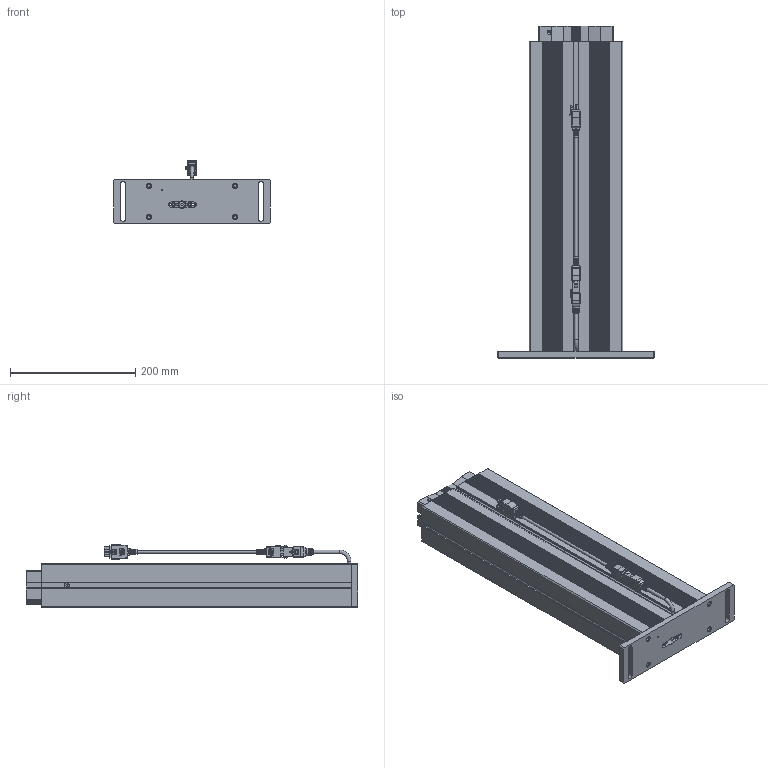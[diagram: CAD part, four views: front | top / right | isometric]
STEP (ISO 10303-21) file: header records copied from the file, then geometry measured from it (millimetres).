
FILE_DESCRIPTION(/* description */ ('Unknown'),/* implementation_level */ '2;1');
FILE_NAME(/* name */ '902.00003_05-Eingefahren',/* time_stamp */ '2022-01-25T17:50:37+01:00',/* author */ ('Unknown'),/* organization */ ('Unknown'),/* preprocessor_version */ 'ST-DEVELOPER v18.1',/* originating_system */ 'Solid Edge',/* authorisation */ 'Unknown');
FILE_SCHEMA (('AUTOMOTIVE_DESIGN {1 0 10303 214 3 1 1}'));
Products named in the file (20): 902.00003; 126.00138; 119.00315; 119.00314; 142.00344; 128.00031; 128.00032; 128.00033; 128.00034; 142.00166; 124.00201_oa_0; 142.00342; 142.00241; 110.00104_oa_1; 125.00354; 115.00200_oa_2; 124.00151; Kabel Motor Sx; 142.00343; 142.00156
Assembly tree (26 placements, depth 2):
  902.00003
    126.00138
    119.00315
    119.00314
    142.00344  x2
    128.00031
    128.00032
    128.00033
    128.00034
    142.00166  x4
    124.00201_oa_0
    142.00342
    142.00241  x2
    110.00104_oa_1
    125.00354
    115.00200_oa_2
    124.00151
    Kabel Motor Sx
    142.00343  x2
    142.00156  x2
Bounding box: 250 x 530 x 100.17 mm (x, y, z)
Volume: 2301512.8 mm3; surface area: 1138227.8 mm2
Topology: 23 solids, 23 shells, 6064 faces, 16205 edges, 10104 vertices
Faces by surface type: plane 2795, cylinder 2179, bspline 798, sphere 154, torus 106, cone 32
Full cylindrical faces by diameter (mm): 1.5 x6, 1.82 x6, 2.459 x1, 2.7 x6, 3.242 x4, 3.4 x1, 4 x6, 5 x6, 5.5 x4, 6 x3, 7 x4, 8 x2, 8.5 x4, 8.7 x4, 10 x1, 12 x1, 30 x3
Entity records: 242841 total; most frequent: CARTESIAN_POINT 80656, ORIENTED_EDGE 31264, DIRECTION 28524, EDGE_CURVE 15632, VERTEX_POINT 9931, AXIS2_PLACEMENT_3D 9605, LINE 9314, VECTOR 9314
